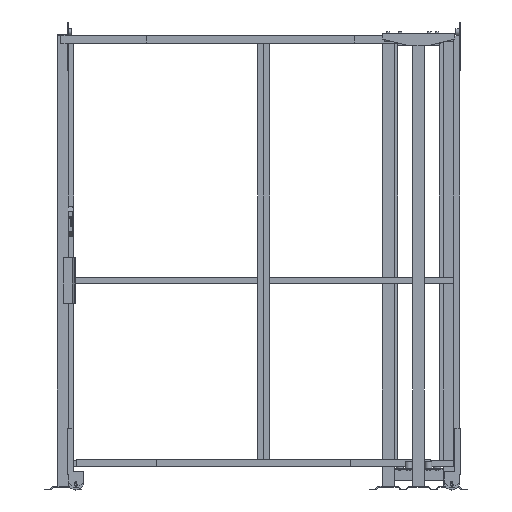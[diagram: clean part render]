
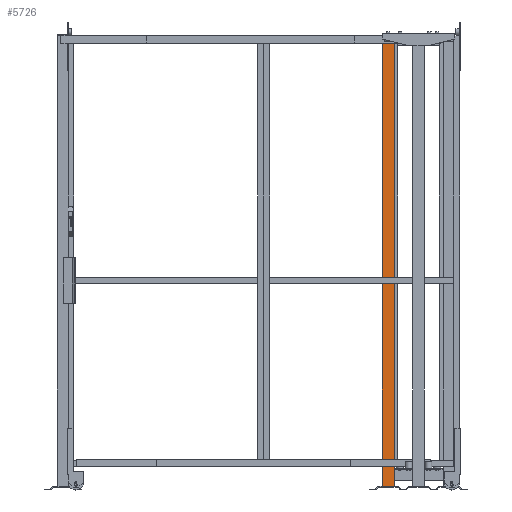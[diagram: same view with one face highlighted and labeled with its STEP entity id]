
A CAD part, front view. The second image highlights one B-rep face of the part: STEP entity #5726.
In plain terms, the highlighted planar face has unit normal (0, -1, 0) as drawn and (-1, 0, 0) by its records, which use the part's own axes.
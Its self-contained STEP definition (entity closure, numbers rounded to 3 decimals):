
#553=FACE_OUTER_BOUND('',#990,.T.);
#990=EDGE_LOOP('',(#3554,#3555,#3556,#3557));
#1480=VERTEX_POINT('',#12214);
#1481=VERTEX_POINT('',#12216);
#1484=VERTEX_POINT('',#12223);
#1485=VERTEX_POINT('',#12225);
#2294=EDGE_CURVE('',#1480,#1481,#6750,.T.);
#2298=EDGE_CURVE('',#1484,#1485,#6754,.T.);
#2300=EDGE_CURVE('',#1481,#1484,#6756,.T.);
#2302=EDGE_CURVE('',#1480,#1485,#6758,.T.);
#3554=ORIENTED_EDGE('',*,*,#2302,.T.);
#3555=ORIENTED_EDGE('',*,*,#2298,.F.);
#3556=ORIENTED_EDGE('',*,*,#2300,.F.);
#3557=ORIENTED_EDGE('',*,*,#2294,.F.);
#5333=PLANE('',#8670);
#5726=ADVANCED_FACE('',(#553),#5333,.F.);
#6750=LINE('',#12217,#7792);
#6754=LINE('',#12226,#7796);
#6756=LINE('',#12229,#7798);
#6758=LINE('',#12232,#7800);
#7792=VECTOR('',#9648,1.);
#7796=VECTOR('',#9654,1.);
#7798=VECTOR('',#9658,1.);
#7800=VECTOR('',#9662,1.);
#8670=AXIS2_PLACEMENT_3D('',#12231,#9660,#9661);
#9648=DIRECTION('',(0.,-1.,0.));
#9654=DIRECTION('',(0.,1.,0.));
#9658=DIRECTION('',(0.,0.,-1.));
#9660=DIRECTION('center_axis',(1.,0.,0.));
#9661=DIRECTION('ref_axis',(0.,0.,-1.));
#9662=DIRECTION('',(0.,0.,-1.));
#12214=CARTESIAN_POINT('',(-30.,30.,2320.));
#12216=CARTESIAN_POINT('',(-30.,-30.,2320.));
#12217=CARTESIAN_POINT('',(-30.,0.,2320.));
#12223=CARTESIAN_POINT('',(-30.,-30.,20.));
#12225=CARTESIAN_POINT('',(-30.,30.,20.));
#12226=CARTESIAN_POINT('',(-30.,0.,20.));
#12229=CARTESIAN_POINT('',(-30.,-30.,1170.));
#12231=CARTESIAN_POINT('Origin',(-30.,0.,
1170.));
#12232=CARTESIAN_POINT('',(-30.,30.,1170.));
